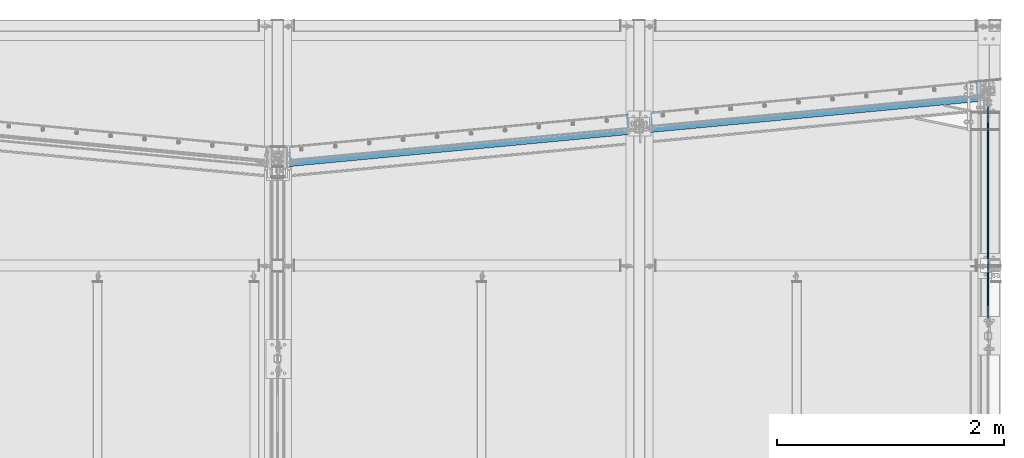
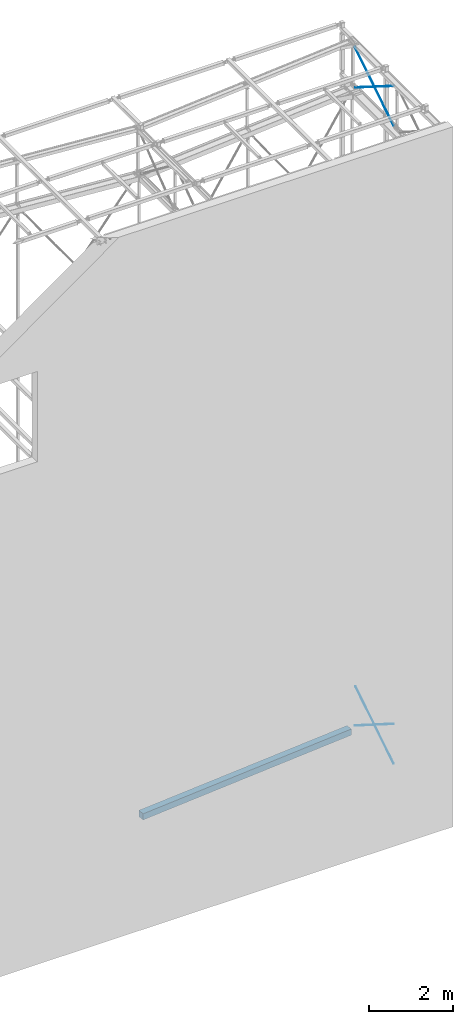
# One storey, part 49 of 271: 4 members, 1 beam, 5 elements without a shape of their own.
"""IFC2X3 building model written with IfcOpenShell, lengths in millimetres."""

from ifc_helpers import new_model, si_unit, frame, origin_with_axes, origin_2d_with_axis, place, context, subcontext, project, spatial, rectangle, circle, extrude, clip, halfspace, material, type_object, element, aggregate, save


model = new_model("IFC2X3")

# Units and contexts
model_context = context("Model", 3, precision=1e-05, world=origin_with_axes())
body_context = subcontext(model_context, "Body", "Model", "MODEL_VIEW")
ifc_project = project(units=[si_unit("LENGTHUNIT", "METRE", prefix="MILLI"), si_unit("AREAUNIT", "SQUARE_METRE"), si_unit("VOLUMEUNIT", "CUBIC_METRE"), si_unit("MASSUNIT", "GRAM", prefix="KILO"), si_unit("TIMEUNIT", "SECOND"), si_unit("PLANEANGLEUNIT", "RADIAN"), si_unit("SOLIDANGLEUNIT", "STERADIAN"), si_unit("THERMODYNAMICTEMPERATUREUNIT", "DEGREE_CELSIUS"), si_unit("LUMINOUSINTENSITYUNIT", "LUMEN")], contexts=[model_context])

# Site, building, storey
site_placement = place(None, origin_with_axes())
site = spatial("IfcSite", under=ifc_project, at=site_placement, Name="Undefined", CompositionType="ELEMENT")
building_placement = place(site_placement, origin_with_axes())
building = spatial("IfcBuilding", under=site, at=building_placement, Name="Undefined", CompositionType="ELEMENT")
storey_placement = place(building_placement, origin_with_axes())
storey = spatial("IfcBuildingStorey", under=building, at=storey_placement, Name="Undefined", CompositionType="ELEMENT", Elevation=0.0)

# Assembly, beam
assembly_1_placement = place(storey_placement, origin_with_axes())
assembly_1 = element("IfcElementAssembly", 1, at=assembly_1_placement, inside=storey, Name="BELKA", AssemblyPlace="NOTDEFINED", PredefinedType="REINFORCEMENT_UNIT")
ifc_material_1 = material(Name="CONCRETE/C25/30")
beam_type = type_object("IfcBeamType", Name="180*180", PredefinedType="NOTDEFINED")
beam_placement = place(assembly_1_placement, frame((12519.8287206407, 4332.33675699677, -106.150000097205), z_axis=(0.0, 0.0, -1.0), x_axis=(-0.995579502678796, -0.0939225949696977, 0.0)))
beam = element("IfcBeam", 2, at=beam_placement, type_object=beam_type, material=ifc_material_1, Name="BELKA", ObjectType="180*180", context=body_context, shape_type="SweptSolid", body=[
    extrude(rectangle(XDim=180.0, YDim=180.0, at=origin_2d_with_axis()), frame((6116.03592040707, 0.0, 1.4210854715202e-14), z_axis=(-1.0, 0.0, 1.38777878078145e-17), x_axis=(0.0, -1.0, 0.0)), (0.0, 0.0, 1.0), 6116.04),
])
aggregate(assembly_1, [beam])

# Assembly, member
assembly_2_placement = place(storey_placement, origin_with_axes())
assembly_2 = element("IfcElementAssembly", 3, at=assembly_2_placement, inside=storey, AssemblyPlace="NOTDEFINED", PredefinedType="RIGID_FRAME")
ifc_material_2 = material(Name="STEEL/S355JR")
member_type = type_object("IfcMemberType", Name="D16", PredefinedType="NOTDEFINED")
member_1_placement = place(assembly_2_placement, frame((12597.751374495, 2179.19355050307, 18644.3499999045), z_axis=(0.0, 0.533166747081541, -0.846010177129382), x_axis=(0.0, 0.846010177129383, 0.533166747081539)))
member_1 = element("IfcMember", 4, at=member_1_placement, type_object=member_type, material=ifc_material_2, Name="STĘŻENIE", ObjectType="D16", context=body_context, shape_type="Clipping", body=[
    clip(clip(extrude(circle(Radius=8.0, at=origin_2d_with_axis()), frame((2550.79673827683, 0.0, 0.0), z_axis=(-1.0, 0.0, 1.38777878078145e-17), x_axis=(0.0, -1.0, 0.0)), (0.0, 0.0, 1.0), 2550.8), halfspace(frame((2380.77956970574, 15.9999996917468, 7.45785655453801e-11), z_axis=(-1.0, 0.0, 1.38777878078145e-17), x_axis=(0.0, 0.0, 1.0)), True)), halfspace(frame((193.237911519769, 17.9999996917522, 1.92812876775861e-10), z_axis=(1.0, 0.0, 0.0), x_axis=(0.0, 0.0, -1.0)), True)),
])
aggregate(assembly_2, [member_1])

assembly_3_placement = place(storey_placement, origin_with_axes())
assembly_3 = element("IfcElementAssembly", 5, at=assembly_3_placement, inside=storey, AssemblyPlace="NOTDEFINED", PredefinedType="RIGID_FRAME")
member_2_placement = place(assembly_3_placement, frame((12597.751374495, 4337.19355050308, 18644.3499999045), z_axis=(0.0, 0.533166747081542, 0.846010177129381), x_axis=(0.0, -0.846010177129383, 0.533166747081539)))
member_2 = element("IfcMember", 6, at=member_2_placement, type_object=member_type, material=ifc_material_2, Name="STĘŻENIE", ObjectType="D16", context=body_context, shape_type="Clipping", body=[
    clip(clip(extrude(circle(Radius=8.0, at=origin_2d_with_axis()), frame((2550.79673827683, 0.0, 0.0), z_axis=(-1.0, 0.0, 1.38777878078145e-17), x_axis=(0.0, -1.0, 0.0)), (0.0, 0.0, 1.0), 2550.8), halfspace(frame((2358.77795684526, 17.9999996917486, 1.89174897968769e-10), z_axis=(-1.0, 0.0, 1.38777878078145e-17), x_axis=(0.0, 0.0, 1.0)), True)), halfspace(frame((208.748016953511, 15.9999996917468, 9.45874489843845e-11), z_axis=(1.0, 0.0, 0.0), x_axis=(0.0, 0.0, -1.0)), True)),
])
aggregate(assembly_3, [member_2])

assembly_4_placement = place(storey_placement, origin_with_axes())
assembly_4 = element("IfcElementAssembly", 7, at=assembly_4_placement, inside=storey, AssemblyPlace="NOTDEFINED", PredefinedType="RIGID_FRAME")
member_3_placement = place(assembly_4_placement, frame((12597.751374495, 2179.19355050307, 1364.34999990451), z_axis=(0.0, 0.535126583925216, 0.84477188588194), x_axis=(0.0, 0.84477188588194, -0.535126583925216)))
member_3 = element("IfcMember", 8, at=member_3_placement, type_object=member_type, material=ifc_material_2, Name="STĘŻENIE", ObjectType="D16", context=body_context, shape_type="Clipping", body=[
    clip(clip(extrude(circle(Radius=8.0, at=origin_2d_with_axis()), frame((2554.53576995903, 1.4210854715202e-14, -1.41805221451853e-13), z_axis=(-1.0, 0.0, 1.38777878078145e-17), x_axis=(0.0, -1.0, 0.0)), (0.0, 0.0, 1.0), 2554.54), halfspace(frame((2384.51905825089, -16.0000003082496, -0.394142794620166), z_axis=(-0.999997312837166, 0.0, -0.00231825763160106), x_axis=(0.00231825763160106, 0.0, -0.999997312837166)), True)), halfspace(frame((192.793469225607, -18.0000003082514, 3.41060513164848e-11), z_axis=(1.0, 0.0, 0.0), x_axis=(0.0, 0.0, 1.0)), True)),
])
aggregate(assembly_4, [member_3])

assembly_5_placement = place(storey_placement, origin_with_axes())
assembly_5 = element("IfcElementAssembly", 9, at=assembly_5_placement, inside=storey, AssemblyPlace="NOTDEFINED", PredefinedType="RIGID_FRAME")
member_4_placement = place(assembly_5_placement, frame((12597.751374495, 4337.19355050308, 1364.34999990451), z_axis=(0.0, 0.535126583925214, -0.844771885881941), x_axis=(0.0, -0.844771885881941, -0.535126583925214)))
member_4 = element("IfcMember", 10, at=member_4_placement, type_object=member_type, material=ifc_material_2, Name="STĘŻENIE", ObjectType="D16", context=body_context, shape_type="Clipping", body=[
    clip(clip(extrude(circle(Radius=8.0, at=origin_2d_with_axis()), frame((2554.53576995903, 1.4210854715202e-14, -1.41805221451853e-13), z_axis=(-1.0, 0.0, 1.38777878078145e-17), x_axis=(0.0, -1.0, 0.0)), (0.0, 0.0, 1.0), 2554.54), halfspace(frame((2362.51750255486, -18.0000003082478, 0.445148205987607), z_axis=(-0.999997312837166, 0.0, 0.00231825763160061), x_axis=(-0.00231825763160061, 0.0, -0.999997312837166)), True)), halfspace(frame((208.038438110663, -16.0000003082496, 1.5688783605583e-11), z_axis=(1.0, 0.0, 0.0), x_axis=(0.0, 0.0, 1.0)), True)),
])
aggregate(assembly_5, [member_4])

save(model, "model.ifc")
